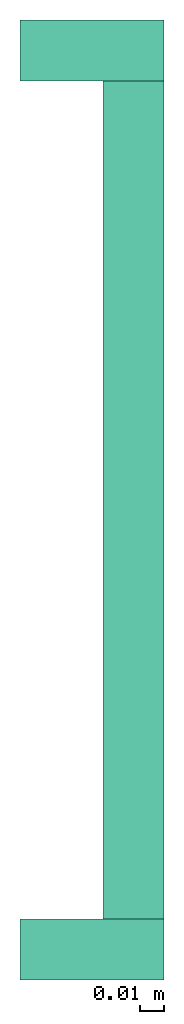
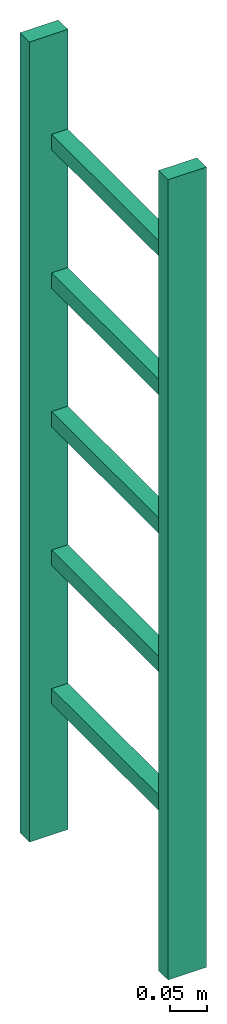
# One storey: 1 flow segment.
"""IFC2X3 building model written with IfcOpenShell, lengths in millimetres."""

from ifc_helpers import new_model, entity, si_unit, converted_unit, derived_unit, direction, frame, origin_with_axes, place, context, subcontext, project, spatial, open_shell, surface_model, source, transform, mapped, type_object, element, save


model = new_model("IFC2X3")

# Units and contexts
model_context = context("Model", 3, precision=0.01, world=frame((0.0, 4.29681676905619e-09, 0.0)), true_north=direction((4.01073788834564e-13, 1.0)))
plan_context = context("Plan", 3, precision=0.01, world=frame((0.0, 4.29681676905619e-09, 0.0)), true_north=direction((4.01073788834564e-13, 1.0)))
body_context = subcontext(model_context, "Body", "Model", "MODEL_VIEW")
ifc_project = project(units=[converted_unit("PLANEANGLEUNIT", "DEGREE", entity("IfcPositiveLengthMeasure", 0.0174532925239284), si_unit("PLANEANGLEUNIT", "RADIAN"), dimensions=[0, 0, 0, 0, 0, 0, 0]), si_unit("AREAUNIT", "SQUARE_METRE"), si_unit("LENGTHUNIT", "METRE", prefix="MILLI"), si_unit("MASSUNIT", "GRAM", prefix="KILO"), si_unit("POWERUNIT", "WATT"), si_unit("PRESSUREUNIT", "PASCAL"), si_unit("FORCEUNIT", "NEWTON", prefix="KILO"), si_unit("ELECTRICVOLTAGEUNIT", "VOLT"), si_unit("ELECTRICCURRENTUNIT", "AMPERE"), si_unit("THERMODYNAMICTEMPERATUREUNIT", "DEGREE_CELSIUS"), si_unit("TIMEUNIT", "SECOND"), si_unit("VOLUMEUNIT", "CUBIC_METRE"), derived_unit("LINEARVELOCITYUNIT", [(si_unit("LENGTHUNIT", "METRE"), 1), (si_unit("TIMEUNIT", "SECOND"), -1)]), derived_unit("VOLUMETRICFLOWRATEUNIT", [(si_unit("VOLUMEUNIT", "CUBIC_METRE"), 1), (si_unit("TIMEUNIT", "SECOND"), -1)]), derived_unit("THERMALTRANSMITTANCEUNIT", [(si_unit("POWERUNIT", "WATT"), 1), (si_unit("THERMODYNAMICTEMPERATUREUNIT", "KELVIN"), -1), (si_unit("AREAUNIT", "SQUARE_METRE"), -1)]), derived_unit("SOUNDPRESSUREUNIT", [(si_unit("PRESSUREUNIT", "PASCAL"), 1)])], contexts=[model_context, plan_context])

# Site, building, storey
site_placement = place(None, frame((0.0, -4.29681676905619e-09, 0.0), z_axis=(0.0, 0.0, 1.0), x_axis=(1.0, 0.0, 0.0)))
site = spatial("IfcSite", under=ifc_project, at=site_placement, Name="ENGM", CompositionType="ELEMENT")
building_placement = place(site_placement, frame((0.0, 4.29681676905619e-09, 0.0), z_axis=(0.0, 0.0, 1.0), x_axis=(1.0, 0.0, 0.0)))
building = spatial("IfcBuilding", under=site, at=building_placement, Name="TS", CompositionType="ELEMENT")
storey_placement = place(building_placement, frame((0.0, 0.0, 210200.0), z_axis=(0.0, 0.0, 1.0), x_axis=(1.0, 0.0, 0.0)))
storey = spatial("IfcBuildingStorey", under=building, at=storey_placement, Name="Nivå F - 0,7 m", CompositionType="ELEMENT", Elevation=210200.0)

# Flow segment
cable_carrier_segment_type = type_object("IfcCableCarrierSegmentType", Name="Kabelbro", PredefinedType="CABLELADDERSEGMENT")
shared_shape = source(origin_with_axes(), body_context, "Body", "SurfaceModel", [
    surface_model("IfcShellBasedSurfaceModel", [(0.0, -174.60001, 30.0), (0.0, -174.60001, -30.0), (0.0, -200.0, -30.0), (0.0, -200.0, 30.0), (0.0, 200.0, 30.0), (0.0, 200.0, -30.0), (0.0, 174.60001, -30.0), (0.0, 174.60001, 30.0), (215.89999, -174.60001, -30.0), (241.30001, -174.60001, -30.0), (241.30001, -174.60001, -4.6), (215.89999, -174.60001, -4.6), (241.30001, 174.60001, -4.6), (241.30001, 174.60001, -30.0), (215.89999, 174.60001, -30.0), (215.89999, 174.60001, -4.6), (444.50001, -174.60001, -30.0), (469.89999, -174.60001, -30.0), (469.89999, -174.60001, -4.6), (444.50001, -174.60001, -4.6), (469.89999, 174.60001, -4.6), (469.89999, 174.60001, -30.0), (444.50001, 174.60001, -30.0), (444.50001, 174.60001, -4.6), (673.09998, -174.60001, -30.0), (698.50002, -174.60001, -30.0), (698.50002, -174.60001, -4.6), (673.09998, -174.60001, -4.6), (698.50002, 174.60001, -4.6), (698.50002, 174.60001, -30.0), (673.09998, 174.60001, -30.0), (673.09998, 174.60001, -4.6), (901.69998, -174.60001, -30.0), (927.10002, -174.60001, -30.0), (927.10002, -174.60001, -4.6), (901.69998, -174.60001, -4.6), (927.10002, 174.60001, -4.6), (927.10002, 174.60001, -30.0), (901.69998, 174.60001, -30.0), (901.69998, 174.60001, -4.6), (1130.29998, -174.60001, -30.0), (1155.70002, -174.60001, -30.0), (1155.70002, -174.60001, -4.6), (1130.29998, -174.60001, -4.6), (1155.70002, 174.60001, -4.6), (1155.70002, 174.60001, -30.0), (1130.29998, 174.60001, -30.0), (1130.29998, 174.60001, -4.6), (1319.99995, -174.60001, 30.0), (1319.99995, -200.0, 30.0), (1319.99995, -200.0, -30.0), (1319.99995, -174.60001, -30.0), (1319.99995, 200.0, 30.0), (1319.99995, 174.60001, 30.0), (1319.99995, 174.60001, -30.0), (1319.99995, 200.0, -30.0)], [open_shell([[[0, 1, 2]], [[2, 3, 0]], [[4, 5, 6]], [[6, 7, 4]], [[8, 9, 10]], [[10, 11, 8]], [[12, 13, 14]], [[14, 15, 12]], [[16, 17, 18]], [[18, 19, 16]], [[20, 21, 22]], [[22, 23, 20]], [[24, 25, 26]], [[26, 27, 24]], [[28, 29, 30]], [[30, 31, 28]], [[32, 33, 34]], [[34, 35, 32]], [[36, 37, 38]], [[38, 39, 36]], [[40, 41, 42]], [[42, 43, 40]], [[44, 45, 46]], [[46, 47, 44]], [[10, 9, 12]], [[13, 12, 9]], [[8, 11, 14]], [[15, 14, 11]], [[18, 17, 20]], [[21, 20, 17]], [[16, 19, 22]], [[23, 22, 19]], [[26, 25, 28]], [[29, 28, 25]], [[24, 27, 30]], [[31, 30, 27]], [[34, 33, 36]], [[37, 36, 33]], [[32, 35, 38]], [[39, 38, 35]], [[42, 41, 44]], [[45, 44, 41]], [[40, 43, 46]], [[47, 46, 43]], [[11, 10, 12]], [[12, 15, 11]], [[9, 8, 14]], [[14, 13, 9]], [[19, 18, 20]], [[20, 23, 19]], [[17, 16, 22]], [[22, 21, 17]], [[27, 26, 28]], [[28, 31, 27]], [[25, 24, 30]], [[30, 29, 25]], [[35, 34, 36]], [[36, 39, 35]], [[33, 32, 38]], [[38, 37, 33]], [[43, 42, 44]], [[44, 47, 43]], [[41, 40, 46]], [[46, 45, 41]], [[48, 49, 50]], [[50, 51, 48]], [[52, 53, 54]], [[54, 55, 52]], [[3, 2, 49]], [[50, 49, 2]], [[0, 3, 49]], [[49, 48, 0]], [[1, 0, 51]], [[48, 51, 0]], [[2, 1, 51]], [[51, 50, 2]], [[5, 4, 55]], [[52, 55, 4]], [[6, 5, 55]], [[55, 54, 6]], [[7, 6, 53]], [[54, 53, 6]], [[4, 7, 53]], [[53, 52, 4]]])]),
])
flow_segment_placement = place(storey_placement, frame((536087.70334, 450115.21064, 3085.0), z_axis=(-1.0, 0.0, 0.0), x_axis=(0.0, 0.0, 1.0)))
element("IfcFlowSegment", 1, at=flow_segment_placement, inside=storey, type_object=cable_carrier_segment_type, Name="Kabelbro", context=body_context, shape_type="MappedRepresentation", body=[
    mapped(shared_shape, transform((0.0, 0.0, 0.0), scale=1.0)),
])

save(model, "model.ifc")
